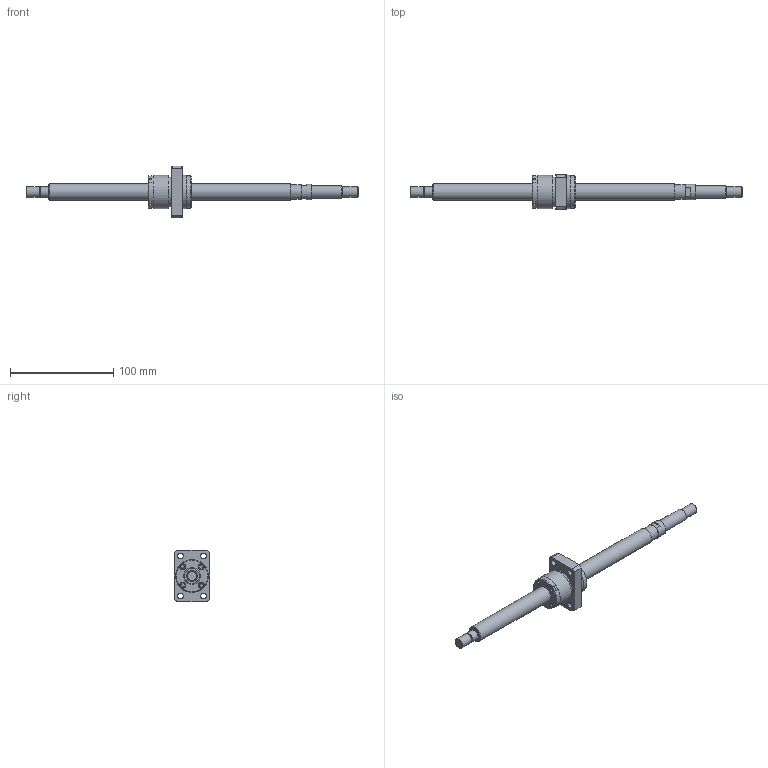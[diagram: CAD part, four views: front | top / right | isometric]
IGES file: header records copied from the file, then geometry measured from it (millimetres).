
Start section: Data from Parasolid IGES Translator 26.0.171, Copyright(c) 2006 Siemens PLM Software. All Rights Reserved.
Global section: file name: BNK1616-3.6G0+321LC5Y(1380).igs; native system: By Siemens PLM Incorporated; preprocessor: XPlus GENERIC/IGES 26.0.171; author: Noname; organization: Noname; date: 20240709.092905; units: millimetre
Bounding box: 321 x 34 x 50 mm (x, y, z)
Surface area: 26750.8 mm2 (no closed solid volume)
Topology: 0 solids, 0 shells, 139 faces, 647 edges, 587 vertices
Faces by surface type: extrusion 75, revolution 64
